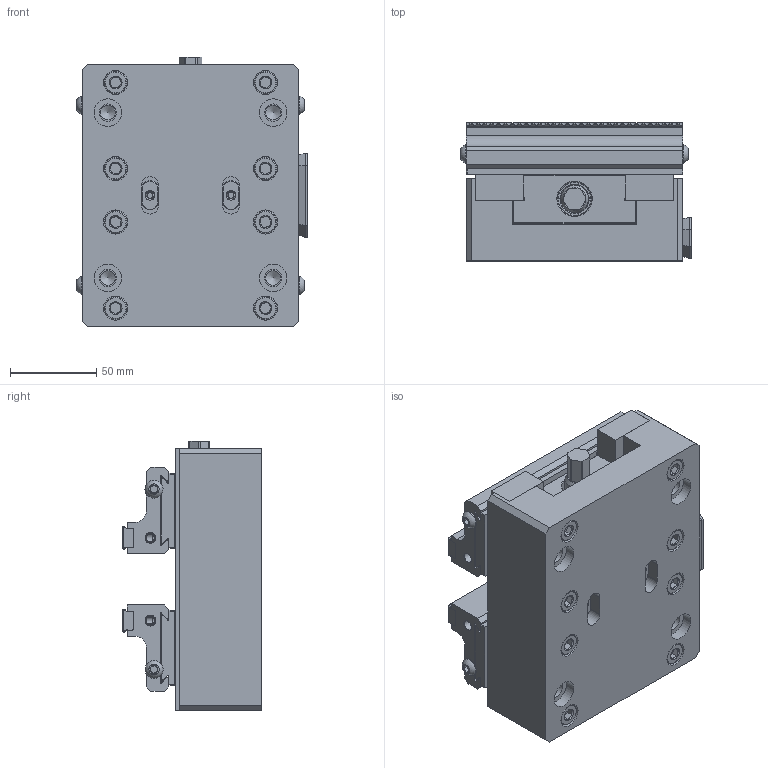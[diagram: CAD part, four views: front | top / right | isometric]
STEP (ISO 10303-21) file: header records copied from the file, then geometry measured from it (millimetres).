
FILE_DESCRIPTION (( 'STEP AP214' ), '1' );
FILE_NAME ('VA56_SPEC_DWG_FOR_WEBSITE.step', '2025-08-11T11:50:43', ( '' ), ( '' ), 'SwSTEP 2.0', 'SolidWorks 2025', '' );
FILE_SCHEMA (( 'AUTOMOTIVE_DESIGN' ));
Length unit declared in the file: inch
Products named in the file (23): VA56-7_SPEC_DWG_VA56-7; VA56_SPEC_DWG_FOR_WEBSITE; VA56-2R_SPEC_DWG_VA56-2R; VA56-9_SPEC_DWG_VA56-9; VA56-6_SPEC_DWG_VA56-6; AS-C96_SPEC_DWG_AS-C96; VA56-3B_SPEC_DWG_VA56-3B; VA56-5_SPEC_DWG_VA56-5; M3X6.DP_SPEC_DWG_M3X6.DP; M8X35MM.SHCS_SPEC_DWG_M8X35MM.SHCS; VA56-2L_SPEC_DWG_VA56-2L; VA56-3T_SPEC_DWG_VA56-3T; VA56-4_SPEC_DWG_VA56-4; M6X14MM.FHCS_SPEC_DWG_M6X14MM.FHCS; VA56-10_SPEC_DWG_VA56-10; M6X10.DP_SPEC_DWG_M6X10.DP; M5X20MM.SHCS_SPEC_DWG_M5X20MM.SHCS; VA56-8_SPEC_DWG_VA56-8; M8X025.SHCS_SPEC_DWG_M8X025.SHCS; M5X12MM.TFHS_SPEC_DWG_M5X12MM.TPFHS; VA56-1_SPEC_DWG_WITHOUT LOGO; VGA-VA5_SPEC_DWG_VGA-VA5; M6X8MM.BHCS_SPEC_DWG_M6X8MM.BHCS
Assembly tree (62 placements, depth 3):
  VA56_SPEC_DWG_FOR_WEBSITE
    VA56-1_SPEC_DWG_WITHOUT LOGO
    VA56-2R_SPEC_DWG_VA56-2R
    VA56-2L_SPEC_DWG_VA56-2L
    VA56-3B_SPEC_DWG_VA56-3B
    VA56-3T_SPEC_DWG_VA56-3T
    VA56-4_SPEC_DWG_VA56-4
    VGA-VA5_SPEC_DWG_VGA-VA5
      VA56-5_SPEC_DWG_VA56-5  x2
      VA56-7_SPEC_DWG_VA56-7  x2
      M5X12MM.TFHS_SPEC_DWG_M5X12MM.TPFHS  x10
      M6X8MM.BHCS_SPEC_DWG_M6X8MM.BHCS  x4
    VA56-6_SPEC_DWG_VA56-6  x2
    VA56-8_SPEC_DWG_VA56-8  x2
    AS-C96_SPEC_DWG_AS-C96
    M6X14MM.FHCS_SPEC_DWG_M6X14MM.FHCS  x2
    M5X20MM.SHCS_SPEC_DWG_M5X20MM.SHCS  x4
    M3X6.DP_SPEC_DWG_M3X6.DP  x2
    M6X10.DP_SPEC_DWG_M6X10.DP  x2
    M8X025.SHCS_SPEC_DWG_M8X025.SHCS  x8
    M8X35MM.SHCS_SPEC_DWG_M8X35MM.SHCS  x8
    VA56-9_SPEC_DWG_VA56-9  x2
    VA56-10_SPEC_DWG_VA56-10  x4
Bounding box: 134.03 x 80.27 x 156.2 mm (x, y, z)
Volume: 1054710.6 mm3; surface area: 286181.6 mm2
Topology: 61 solids, 61 shells, 2545 faces, 6217 edges, 3916 vertices
Faces by surface type: plane 1313, cylinder 755, cone 388, torus 64, bspline 13, sphere 12
Full cylindrical faces by diameter (mm): 3 x2, 3.023 x2, 3.025 x2, 4.2 x14, 5 x34, 5.5 x16, 6 x18, 6.02 x2, 6.05 x2, 6.35 x1, 6.5 x2, 6.8 x16, 8 x16, 8.5 x24, 9.5 x4, 10 x4, 10.25 x10, 10.5 x14, 11.5 x1, 12 x2, 12.5 x2, 12.6 x8, 13 x16, 13.3 x3, 14 x18, 14.58 x2, 16 x2, 16.015 x4, 20 x4
Entity records: 37261 total; most frequent: CARTESIAN_POINT 8277, ORIENTED_EDGE 5616, DIRECTION 5504, EDGE_CURVE 2808, AXIS2_PLACEMENT_3D 1943, VERTEX_POINT 1932, VECTOR 1618, LINE 1618
